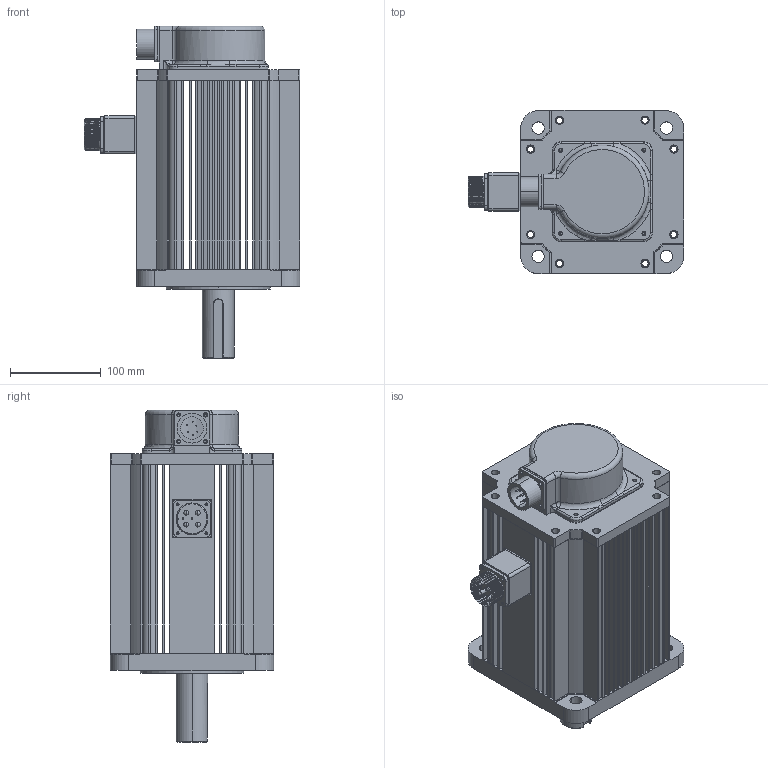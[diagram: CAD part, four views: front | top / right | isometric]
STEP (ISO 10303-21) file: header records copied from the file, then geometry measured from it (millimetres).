
FILE_DESCRIPTION (( 'STEP AP203' ), '1' );
FILE_NAME ('MS6H-180CN15BZ2-44P4.STEP', '2023-12-26T03:01:00', ( '' ), ( '' ), 'SwSTEP 2.0', 'SolidWorks 2022', '' );
FILE_SCHEMA (( 'CONFIG_CONTROL_DESIGN' ));
Length unit declared in the file: millimetre
Products named in the file (1): MS6H-180CN15BZ2-44P4
Bounding box: 237.9 x 180 x 366 mm (x, y, z)
Surface area: 435306.4 mm2 (no closed solid volume)
Topology: 0 solids, 20 shells, 749 faces, 2277 edges, 1537 vertices
Faces by surface type: cylinder 312, plane 306, torus 73, bspline 31, sphere 14, cone 13
Entity records: 31944 total; most frequent: CARTESIAN_POINT 11672, DIRECTION 4386, ORIENTED_EDGE 3876, EDGE_CURVE 2249, AXIS2_PLACEMENT_3D 1620, VERTEX_POINT 1525, VECTOR 1146, LINE 1146
